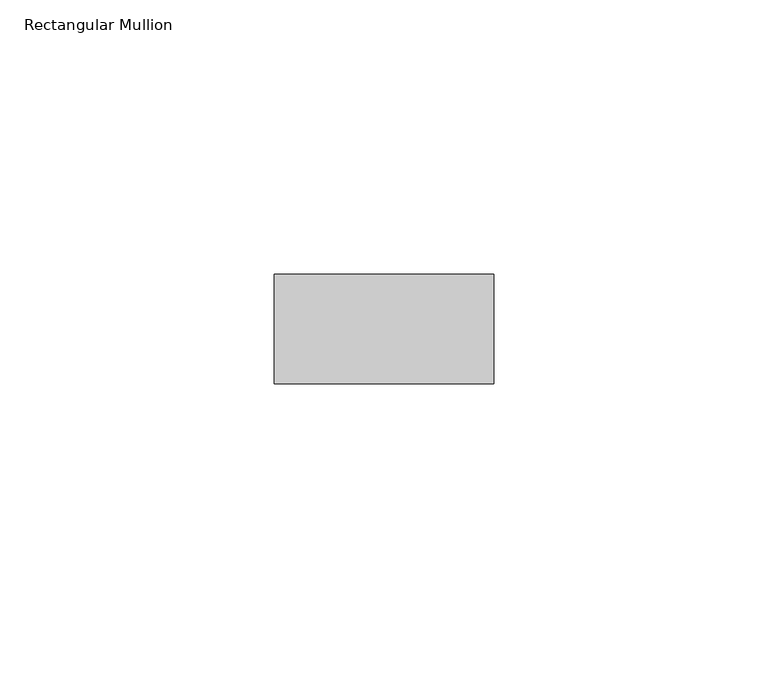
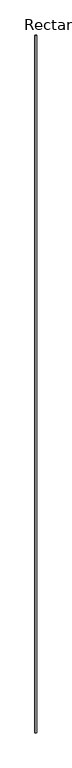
"""IFC4 building model written with IfcOpenShell, lengths in millimetres: member geometry, Rectangular Mullion : RIPA 4x2 cm."""

from ifc_helpers import new_model, si_unit, frame, origin, place, context, project, spatial, polyline, outline, extrude, source, transform, mapped, element, save


def rectangular_mullion_25aaa9f0(model_context):
    return source(origin(), model_context, "Body", "SweptSolid", [
        extrude(outline(polyline([(20.0, 0.0), (20.0, -20.0), (-20.0, -20.0), (-20.0, 0.0), (20.0, 0.0)])), frame((0.0, 0.0, -21250.0), z_axis=(0.0, 0.0, 1.0), x_axis=(1.0, 0.0, 0.0)), (0.0, 0.0, 1.0), 21250.0),
    ])


if __name__ == "__main__":
    model = new_model("IFC4")
    model_context = context("Model", 3, world=origin())
    ifc_project = project(units=[si_unit("LENGTHUNIT", "METRE", prefix="MILLI")], contexts=[model_context])
    site = spatial("IfcSite", under=ifc_project)
    building = spatial("IfcBuilding", under=site)
    placement = place(None, origin())
    rectangular_mullion_shape = rectangular_mullion_25aaa9f0(model_context)
    element("IfcMember", 1, ObjectType="Rectangular Mullion : RIPA 4x2 cm", at=placement, inside=building, context=model_context, shape_type="MappedRepresentation", body=[
        mapped(rectangular_mullion_shape, transform((0.0, 0.0, 0.0), x_axis=(1.0, 0.0, 0.0), y_axis=(0.0, 1.0, 0.0), z_axis=(0.0, 0.0, 1.0))),
    ])
    save(model, "model.ifc")
